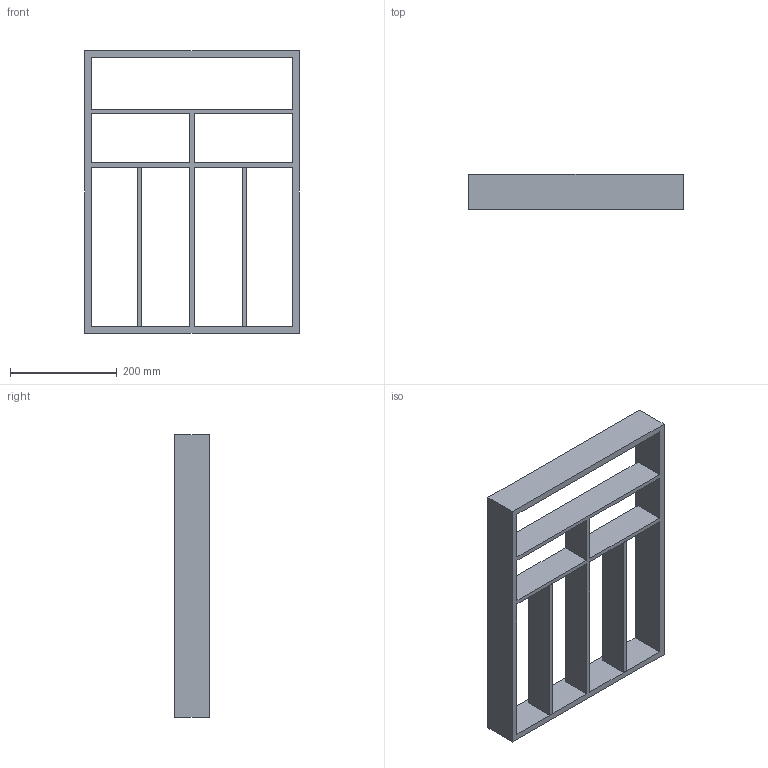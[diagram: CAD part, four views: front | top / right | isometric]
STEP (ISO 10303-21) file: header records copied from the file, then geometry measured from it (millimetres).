
FILE_DESCRIPTION (( 'STEP AP214' ), '1' );
FILE_NAME ('Vario Besteck NL550_B500_19 mm_Buche.step', '2010-11-04T08:33:07', ( 'grass' ), ( '' ), 'SwSTEP 2.0', 'SolidWorks 2010', '' );
FILE_SCHEMA (( 'AUTOMOTIVE_DESIGN' ));
Length unit declared in the file: millimetre
Products named in the file (1): Vario Besteck NL550_B500_19 mm_Buche
Bounding box: 402 x 65 x 529 mm (x, y, z)
Volume: 2210640 mm3; surface area: 504382 mm2
Topology: 3 solids, 3 shells, 34 faces, 96 edges, 64 vertices
Faces by surface type: plane 34
Entity records: 1152 total; most frequent: CARTESIAN_POINT 195, ORIENTED_EDGE 192, DIRECTION 166, LINE 96, VECTOR 96, EDGE_CURVE 96, VERTEX_POINT 64, EDGE_LOOP 40
